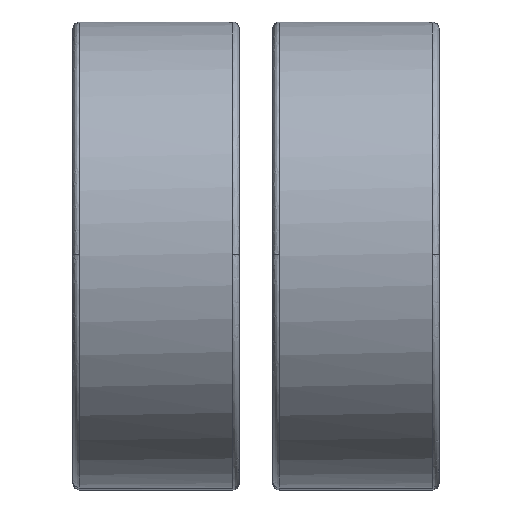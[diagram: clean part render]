
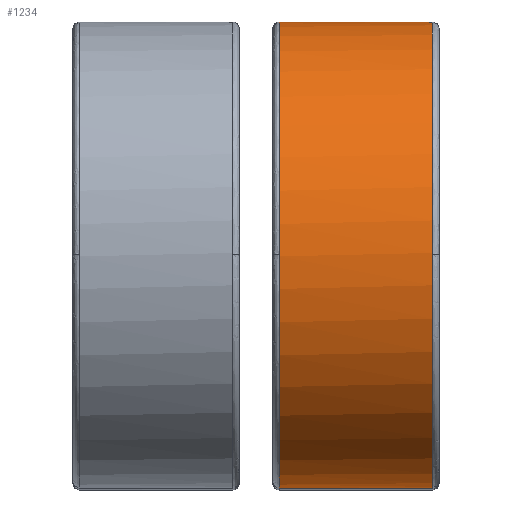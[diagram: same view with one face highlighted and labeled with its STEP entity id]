
A CAD part, top view. The second image highlights one B-rep face of the part: STEP entity #1234.
In plain terms, the highlighted free-form (B-spline) face has degree [2, 1] with [9, 2] control points.
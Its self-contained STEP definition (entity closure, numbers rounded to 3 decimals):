
#1234=ADVANCED_FACE('',(#1338),#4477,.T.);
#1338=FACE_OUTER_BOUND('',#1447,.T.);
#1447=EDGE_LOOP('',(#1628,#1629,#1630,#1631));
#1628=ORIENTED_EDGE('',*,*,#3496,.T.);
#1629=ORIENTED_EDGE('',*,*,#3497,.T.);
#1630=ORIENTED_EDGE('',*,*,#3498,.T.);
#1631=ORIENTED_EDGE('',*,*,#3499,.T.);
#1992=PCURVE('',#4477,#2356);
#1993=PCURVE('',#4477,#2357);
#1994=PCURVE('',#4477,#2358);
#1995=PCURVE('',#4477,#2359);
#2356=DEFINITIONAL_REPRESENTATION('',(#2732),#11146);
#2357=DEFINITIONAL_REPRESENTATION('',(#2734),#11146);
#2358=DEFINITIONAL_REPRESENTATION('',(#2735),#11146);
#2359=DEFINITIONAL_REPRESENTATION('',(#2737),#11146);
#2732=B_SPLINE_CURVE_WITH_KNOTS('',1,(#6079,#6080),.UNSPECIFIED.,.F.,.F.,
(2,2),(-8.283,-5.142),.UNSPECIFIED.);
#2733=B_SPLINE_CURVE_WITH_KNOTS('',1,(#6081,#6082),.UNSPECIFIED.,.F.,.F.,
(2,2),(-5.142,-4.142),.UNSPECIFIED.);
#2734=B_SPLINE_CURVE_WITH_KNOTS('',1,(#6083,#6084),.UNSPECIFIED.,.F.,.F.,
(2,2),(-5.142,-4.142),.UNSPECIFIED.);
#2735=B_SPLINE_CURVE_WITH_KNOTS('',1,(#6090,#6091),.UNSPECIFIED.,.F.,.F.,
(2,2),(-4.142,-1.),.UNSPECIFIED.);
#2736=B_SPLINE_CURVE_WITH_KNOTS('',1,(#6092,#6093),.UNSPECIFIED.,.F.,.F.,
(2,2),(-1.,0.),.UNSPECIFIED.);
#2737=B_SPLINE_CURVE_WITH_KNOTS('',1,(#6094,#6095),.UNSPECIFIED.,.F.,.F.,
(2,2),(-1.,0.),.UNSPECIFIED.);
#3132=SURFACE_CURVE('',#3848,(#1992),.PCURVE_S1.);
#3133=SURFACE_CURVE('',#2733,(#1993),.PCURVE_S1.);
#3134=SURFACE_CURVE('',#3849,(#1994),.PCURVE_S1.);
#3135=SURFACE_CURVE('',#2736,(#1995),.PCURVE_S1.);
#3496=EDGE_CURVE('',#4176,#4179,#3132,.T.);
#3497=EDGE_CURVE('',#4179,#4178,#3133,.T.);
#3498=EDGE_CURVE('',#4178,#4177,#3134,.T.);
#3499=EDGE_CURVE('',#4177,#4176,#3135,.T.);
#3848=(
BOUNDED_CURVE()
B_SPLINE_CURVE(2,(#6074,#6075,#6076,#6077,#6078),.UNSPECIFIED.,.F.,.F.)
B_SPLINE_CURVE_WITH_KNOTS((3,2,3),(-8.283,-6.712,-5.142),
 .UNSPECIFIED.)
CURVE()
GEOMETRIC_REPRESENTATION_ITEM()
RATIONAL_B_SPLINE_CURVE((1.,0.707,1.,0.707,1.))
REPRESENTATION_ITEM('')
);
#3849=(
BOUNDED_CURVE()
B_SPLINE_CURVE(2,(#6085,#6086,#6087,#6088,#6089),.UNSPECIFIED.,.F.,.F.)
B_SPLINE_CURVE_WITH_KNOTS((3,2,3),(-4.142,-2.571,-1.),
 .UNSPECIFIED.)
CURVE()
GEOMETRIC_REPRESENTATION_ITEM()
RATIONAL_B_SPLINE_CURVE((1.,0.707,1.,0.707,1.))
REPRESENTATION_ITEM('')
);
#4176=VERTEX_POINT('',#6070);
#4177=VERTEX_POINT('',#6071);
#4178=VERTEX_POINT('',#6072);
#4179=VERTEX_POINT('',#6073);
#4477=(
BOUNDED_SURFACE()
B_SPLINE_SURFACE(2,1,((#6052,#6053),(#6054,#6055),(#6056,#6057),(#6058,#6059),
(#6060,#6061),(#6062,#6063),(#6064,#6065),(#6066,#6067),(#6068,#6069)),
 .UNSPECIFIED.,.T.,.F.,.F.)
B_SPLINE_SURFACE_WITH_KNOTS((3,2,2,2,3),(2,2),(0.,1.571,3.142,
4.712,6.283),(0.,1.),.UNSPECIFIED.)
GEOMETRIC_REPRESENTATION_ITEM()
RATIONAL_B_SPLINE_SURFACE(((1.,1.),(0.707,0.707),
(1.,1.),(0.707,0.707),(1.,1.),(0.707,
0.707),(1.,1.),(0.707,0.707),(1.,1.)))
REPRESENTATION_ITEM('')
SURFACE()
);
#6052=CARTESIAN_POINT('',(762.2,279.,46.));
#6053=CARTESIAN_POINT('',(766.8,279.,46.));
#6054=CARTESIAN_POINT('',(762.2,279.,39.));
#6055=CARTESIAN_POINT('',(766.8,279.,39.));
#6056=CARTESIAN_POINT('',(762.2,272.,39.));
#6057=CARTESIAN_POINT('',(766.8,272.,39.));
#6058=CARTESIAN_POINT('',(762.2,265.,39.));
#6059=CARTESIAN_POINT('',(766.8,265.,39.));
#6060=CARTESIAN_POINT('',(762.2,265.,46.));
#6061=CARTESIAN_POINT('',(766.8,265.,46.));
#6062=CARTESIAN_POINT('',(762.2,265.,53.));
#6063=CARTESIAN_POINT('',(766.8,265.,53.));
#6064=CARTESIAN_POINT('',(762.2,272.,53.));
#6065=CARTESIAN_POINT('',(766.8,272.,53.));
#6066=CARTESIAN_POINT('',(762.2,279.,53.));
#6067=CARTESIAN_POINT('',(766.8,279.,53.));
#6068=CARTESIAN_POINT('',(762.2,279.,46.));
#6069=CARTESIAN_POINT('',(766.8,279.,46.));
#6070=CARTESIAN_POINT('',(766.8,279.,46.));
#6071=CARTESIAN_POINT('',(762.2,279.,46.));
#6072=CARTESIAN_POINT('',(762.2,265.,46.));
#6073=CARTESIAN_POINT('',(766.8,265.,46.));
#6074=CARTESIAN_POINT('',(766.8,279.,46.));
#6075=CARTESIAN_POINT('',(766.8,279.,53.));
#6076=CARTESIAN_POINT('',(766.8,272.,53.));
#6077=CARTESIAN_POINT('',(766.8,265.,53.));
#6078=CARTESIAN_POINT('',(766.8,265.,46.));
#6079=CARTESIAN_POINT('',(6.283,1.));
#6080=CARTESIAN_POINT('',(3.142,1.));
#6081=CARTESIAN_POINT('',(766.8,265.,46.));
#6082=CARTESIAN_POINT('',(762.2,265.,46.));
#6083=CARTESIAN_POINT('',(3.142,1.));
#6084=CARTESIAN_POINT('',(3.142,0.));
#6085=CARTESIAN_POINT('',(762.2,265.,46.));
#6086=CARTESIAN_POINT('',(762.2,265.,53.));
#6087=CARTESIAN_POINT('',(762.2,272.,53.));
#6088=CARTESIAN_POINT('',(762.2,279.,53.));
#6089=CARTESIAN_POINT('',(762.2,279.,46.));
#6090=CARTESIAN_POINT('',(3.142,0.));
#6091=CARTESIAN_POINT('',(6.283,0.));
#6092=CARTESIAN_POINT('',(762.2,279.,46.));
#6093=CARTESIAN_POINT('',(766.8,279.,46.));
#6094=CARTESIAN_POINT('',(6.283,0.));
#6095=CARTESIAN_POINT('',(6.283,1.));
#11146=(
GEOMETRIC_REPRESENTATION_CONTEXT(2)
PARAMETRIC_REPRESENTATION_CONTEXT()
REPRESENTATION_CONTEXT('pspace','')
);
